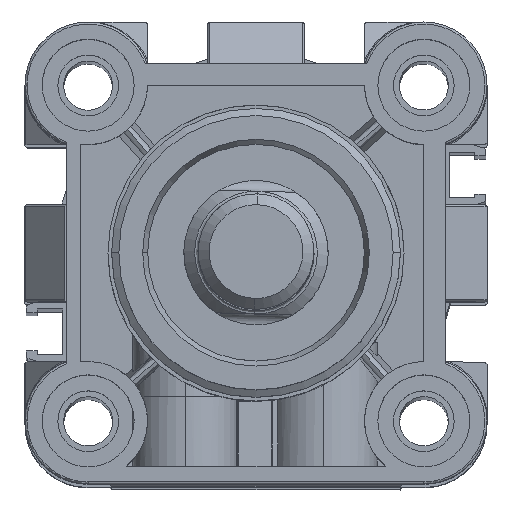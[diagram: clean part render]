
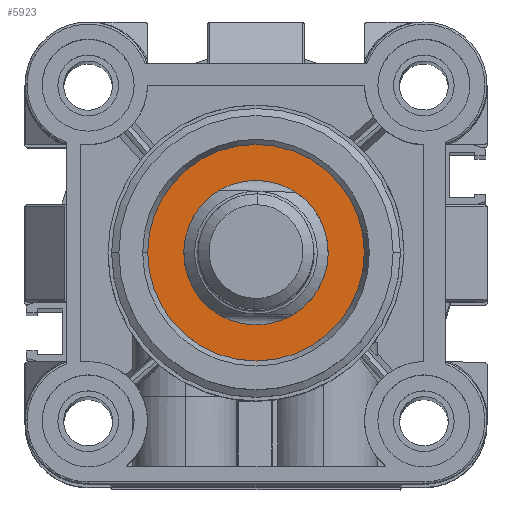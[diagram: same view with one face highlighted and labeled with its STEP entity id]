
A CAD part, top view. The second image highlights one B-rep face of the part: STEP entity #5923.
In plain terms, the highlighted planar face has unit normal (0, 0, 1) as drawn and (0, 0, -1) by its records, which use the part's own axes.
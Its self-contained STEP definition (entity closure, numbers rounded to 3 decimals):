
#218 = DIRECTION ( 'NONE',  ( 0., 0., -1. ) ) ;
#536 = EDGE_CURVE ( 'NONE', #16755, #2905, #7054, .T. ) ;
#976 = DIRECTION ( 'NONE',  ( 0., 0., -1. ) ) ;
#1476 = VERTEX_POINT ( 'NONE', #3023 ) ;
#1601 = EDGE_CURVE ( 'NONE', #1476, #6849, #9576, .T. ) ;
#2875 = AXIS2_PLACEMENT_3D ( 'NONE', #13609, #3944, #15214 ) ;
#2905 = VERTEX_POINT ( 'NONE', #16270 ) ;
#3023 = CARTESIAN_POINT ( 'NONE',  ( 41.25, 26.25, -25.4 ) ) ;
#3944 = DIRECTION ( 'NONE',  ( 0., 0., -1. ) ) ;
#4095 = FACE_BOUND ( 'NONE', #15028, .T. ) ;
#4188 = EDGE_LOOP ( 'NONE', ( #8518, #5486 ) ) ;
#5486 = ORIENTED_EDGE ( 'NONE', *, *, #11314, .T. ) ;
#5747 = CARTESIAN_POINT ( 'NONE',  ( 41.43, 11.07, -25.4 ) ) ;
#5923 = ADVANCED_FACE ( 'NONE', ( #4095, #16407 ), #10630, .T. ) ;
#6849 = VERTEX_POINT ( 'NONE', #18919 ) ;
#7048 = AXIS2_PLACEMENT_3D ( 'NONE', #5747, #976, #12230 ) ;
#7054 = CIRCLE ( 'NONE', #11494, 10. ) ;
#7457 = CARTESIAN_POINT ( 'NONE',  ( 26.25, 26.25, -25.4 ) ) ;
#8518 = ORIENTED_EDGE ( 'NONE', *, *, #1601, .T. ) ;
#8966 = ORIENTED_EDGE ( 'NONE', *, *, #536, .F. ) ;
#9114 = DIRECTION ( 'NONE',  ( 1., 0., 0. ) ) ;
#9576 = CIRCLE ( 'NONE', #20679, 15. ) ;
#9651 = CIRCLE ( 'NONE', #2875, 10. ) ;
#9872 = CARTESIAN_POINT ( 'NONE',  ( 26.25, 26.25, -25.4 ) ) ;
#10111 = DIRECTION ( 'NONE',  ( 0., 0., -1. ) ) ;
#10570 = DIRECTION ( 'NONE',  ( 0., 1., 0. ) ) ;
#10630 = PLANE ( 'NONE',  #7048 ) ;
#11314 = EDGE_CURVE ( 'NONE', #6849, #1476, #15575, .T. ) ;
#11477 = DIRECTION ( 'NONE',  ( 1., 0., 0. ) ) ;
#11494 = AXIS2_PLACEMENT_3D ( 'NONE', #11868, #10111, #10570 ) ;
#11868 = CARTESIAN_POINT ( 'NONE',  ( 26.25, 26.25, -25.4 ) ) ;
#12230 = DIRECTION ( 'NONE',  ( -1., 0., 0. ) ) ;
#13609 = CARTESIAN_POINT ( 'NONE',  ( 26.25, 26.25, -25.4 ) ) ;
#13756 = AXIS2_PLACEMENT_3D ( 'NONE', #7457, #18718, #9114 ) ;
#15028 = EDGE_LOOP ( 'NONE', ( #8966, #20843 ) ) ;
#15214 = DIRECTION ( 'NONE',  ( 0., 1., 0. ) ) ;
#15575 = CIRCLE ( 'NONE', #13756, 15. ) ;
#16232 = CARTESIAN_POINT ( 'NONE',  ( 26.25, 36.25, -25.4 ) ) ;
#16270 = CARTESIAN_POINT ( 'NONE',  ( 26.25, 16.25, -25.4 ) ) ;
#16337 = EDGE_CURVE ( 'NONE', #2905, #16755, #9651, .T. ) ;
#16407 = FACE_OUTER_BOUND ( 'NONE', #4188, .T. ) ;
#16755 = VERTEX_POINT ( 'NONE', #16232 ) ;
#18718 = DIRECTION ( 'NONE',  ( 0., 0., -1. ) ) ;
#18919 = CARTESIAN_POINT ( 'NONE',  ( 11.25, 26.25, -25.4 ) ) ;
#20679 = AXIS2_PLACEMENT_3D ( 'NONE', #9872, #218, #11477 ) ;
#20843 = ORIENTED_EDGE ( 'NONE', *, *, #16337, .F. ) ;
